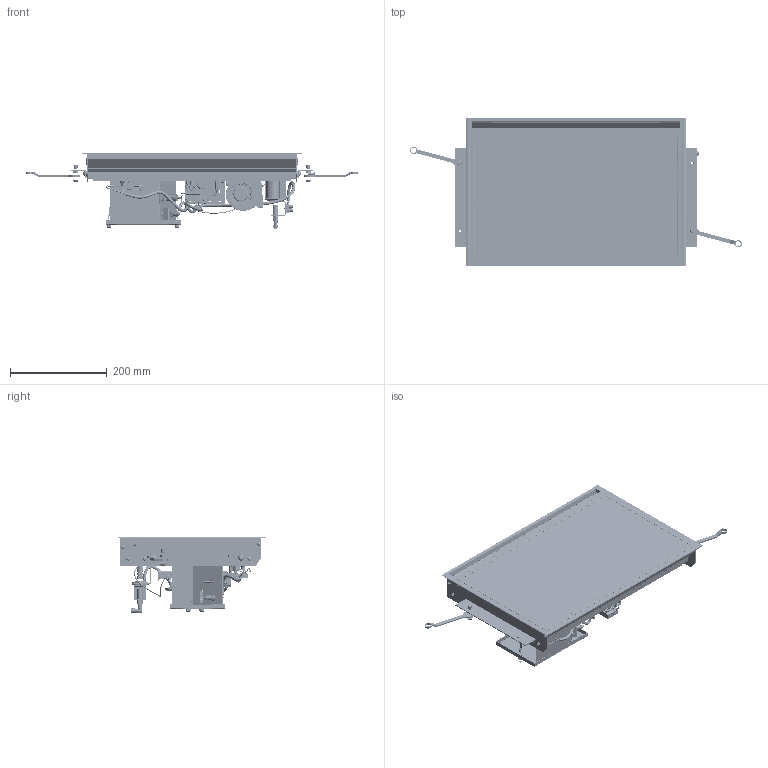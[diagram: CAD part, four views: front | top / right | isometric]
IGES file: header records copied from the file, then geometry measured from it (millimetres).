
Start section: SolidWorks IGES file using analytic representation for surfaces
Global section: file name: D:\Kuvat\Tuotekehitys\Solid Works\Työkansio\Myynnille\85Dt.IGS; native system: SolidWorks 2021; preprocessor: SolidWorks 2021; author: janne; date: 210914.122821; units: millimetre
Bounding box: 685.31 x 306 x 162.74 mm (x, y, z)
Surface area: 1668303 mm2 (no closed solid volume)
Topology: 0 solids, 0 shells, 4765 faces, 56351 edges, 56320 vertices
Faces by surface type: bspline 4761, revolution 4
